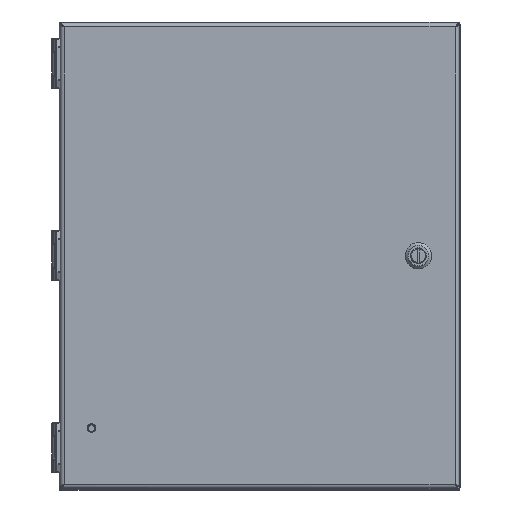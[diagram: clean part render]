
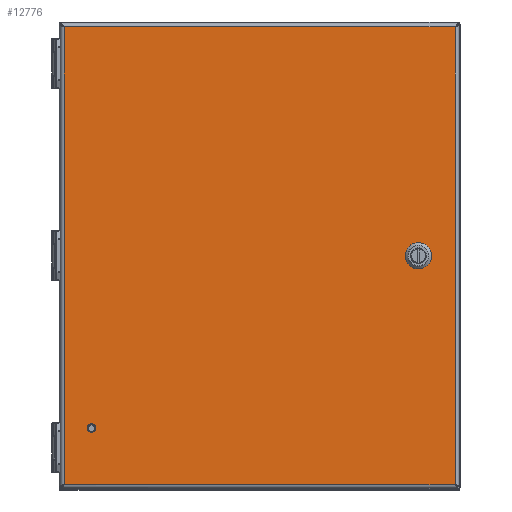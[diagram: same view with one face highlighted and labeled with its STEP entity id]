
A CAD part, top view. The second image highlights one B-rep face of the part: STEP entity #12776.
In plain terms, the highlighted planar face has unit normal (0, 0, 1).
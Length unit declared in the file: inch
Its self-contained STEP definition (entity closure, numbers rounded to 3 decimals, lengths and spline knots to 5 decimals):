
#10521=CARTESIAN_POINT('',(-5.035,-5.16,0.81));
#10522=DIRECTION('',(0.,0.,1.));
#10523=DIRECTION('',(-1.,0.,0.));
#10524=AXIS2_PLACEMENT_3D('',#10521,#10522,#10523);
#10529=CARTESIAN_POINT('',(-5.035,-5.16,0.81));
#10530=DIRECTION('',(0.,0.,1.));
#10531=DIRECTION('',(1.,0.,0.));
#10532=AXIS2_PLACEMENT_3D('',#10529,#10530,#10531);
#10537=DIRECTION('',(0.707,0.707,0.));
#10538=VECTOR('',#10537,0.30984);
#10539=CARTESIAN_POINT('',(4.44447,0.08845,0.81));
#10540=LINE('',#10539,#10538);
#10544=CARTESIAN_POINT('',(4.752,0.,0.81));
#10545=DIRECTION('',(0.,0.,1.));
#10546=DIRECTION('',(-0.961,0.276,0.));
#10547=AXIS2_PLACEMENT_3D('',#10544,#10545,#10546);
#10552=DIRECTION('',(-0.707,0.707,0.));
#10553=VECTOR('',#10552,0.30984);
#10554=CARTESIAN_POINT('',(4.66355,-0.30753,0.81));
#10555=LINE('',#10554,#10553);
#10559=CARTESIAN_POINT('',(4.752,0.,0.81));
#10560=DIRECTION('',(0.,0.,1.));
#10561=DIRECTION('',(-0.276,-0.961,0.));
#10562=AXIS2_PLACEMENT_3D('',#10559,#10560,#10561);
#10567=DIRECTION('',(-0.707,-0.707,0.));
#10568=VECTOR('',#10567,0.30984);
#10569=CARTESIAN_POINT('',(5.05953,-0.08845,0.81));
#10570=LINE('',#10569,#10568);
#10574=CARTESIAN_POINT('',(4.752,0.,0.81));
#10575=DIRECTION('',(0.,0.,1.));
#10576=DIRECTION('',(0.961,-0.276,0.));
#10577=AXIS2_PLACEMENT_3D('',#10574,#10575,#10576);
#10582=DIRECTION('',(0.707,-0.707,0.));
#10583=VECTOR('',#10582,0.30984);
#10584=CARTESIAN_POINT('',(4.84045,0.30753,0.81));
#10585=LINE('',#10584,#10583);
#10589=CARTESIAN_POINT('',(4.752,0.,0.81));
#10590=DIRECTION('',(0.,0.,1.));
#10591=DIRECTION('',(0.276,0.961,0.));
#10592=AXIS2_PLACEMENT_3D('',#10589,#10590,#10591);
#10597=DIRECTION('',(1.,0.,0.));
#10598=VECTOR('',#10597,11.7);
#10599=CARTESIAN_POINT('',(-5.85,-6.85,0.81));
#10600=LINE('',#10599,#10598);
#10689=DIRECTION('',(0.,1.,0.));
#10690=VECTOR('',#10689,13.7);
#10691=CARTESIAN_POINT('',(5.85,-6.85,0.81));
#10692=LINE('',#10691,#10690);
#10739=DIRECTION('',(-1.,0.,0.));
#10740=VECTOR('',#10739,11.7);
#10741=CARTESIAN_POINT('',(5.85,6.85,0.81));
#10742=LINE('',#10741,#10740);
#10838=DIRECTION('',(0.,-1.,0.));
#10839=VECTOR('',#10838,13.7);
#10840=CARTESIAN_POINT('',(-5.85,6.85,0.81));
#10841=LINE('',#10840,#10839);
#12449=CARTESIAN_POINT('',(-5.85,6.85,0.81));
#12450=CARTESIAN_POINT('',(-5.85,-6.85,0.81));
#12451=VERTEX_POINT('',#12449);
#12452=VERTEX_POINT('',#12450);
#12453=CARTESIAN_POINT('',(5.85,-6.85,0.81));
#12454=CARTESIAN_POINT('',(5.85,6.85,0.81));
#12455=VERTEX_POINT('',#12453);
#12456=VERTEX_POINT('',#12454);
#12535=CARTESIAN_POINT('',(-5.13305,-5.16,0.81));
#12536=CARTESIAN_POINT('',(-4.93695,-5.16,0.81));
#12537=VERTEX_POINT('',#12535);
#12538=VERTEX_POINT('',#12536);
#12543=CARTESIAN_POINT('',(4.44447,0.08845,0.81));
#12544=CARTESIAN_POINT('',(4.66355,0.30753,0.81));
#12545=VERTEX_POINT('',#12543);
#12546=VERTEX_POINT('',#12544);
#12547=CARTESIAN_POINT('',(4.84045,0.30753,0.81));
#12548=VERTEX_POINT('',#12547);
#12549=CARTESIAN_POINT('',(5.05953,0.08845,0.81));
#12550=VERTEX_POINT('',#12549);
#12551=CARTESIAN_POINT('',(5.05953,-0.08845,0.81));
#12552=VERTEX_POINT('',#12551);
#12553=CARTESIAN_POINT('',(4.84045,-0.30753,0.81));
#12554=VERTEX_POINT('',#12553);
#12555=CARTESIAN_POINT('',(4.66355,-0.30753,0.81));
#12556=VERTEX_POINT('',#12555);
#12557=CARTESIAN_POINT('',(4.44447,-0.08845,0.81));
#12558=VERTEX_POINT('',#12557);
#12737=CARTESIAN_POINT('',(0.,0.,0.81));
#12738=DIRECTION('',(0.,0.,1.));
#12739=DIRECTION('',(1.,0.,0.));
#12740=AXIS2_PLACEMENT_3D('',#12737,#12738,#12739);
#12741=PLANE('',#12740);
#12743=ORIENTED_EDGE('',*,*,#12742,.F.);
#12745=ORIENTED_EDGE('',*,*,#12744,.F.);
#12747=ORIENTED_EDGE('',*,*,#12746,.F.);
#12749=ORIENTED_EDGE('',*,*,#12748,.F.);
#12750=EDGE_LOOP('',(#12743,#12745,#12747,#12749));
#12751=FACE_OUTER_BOUND('',#12750,.F.);
#12753=ORIENTED_EDGE('',*,*,#12752,.T.);
#12755=ORIENTED_EDGE('',*,*,#12754,.T.);
#12756=EDGE_LOOP('',(#12753,#12755));
#12757=FACE_BOUND('',#12756,.F.);
#12759=ORIENTED_EDGE('',*,*,#12758,.F.);
#12761=ORIENTED_EDGE('',*,*,#12760,.T.);
#12763=ORIENTED_EDGE('',*,*,#12762,.F.);
#12765=ORIENTED_EDGE('',*,*,#12764,.T.);
#12767=ORIENTED_EDGE('',*,*,#12766,.F.);
#12769=ORIENTED_EDGE('',*,*,#12768,.T.);
#12771=ORIENTED_EDGE('',*,*,#12770,.F.);
#12773=ORIENTED_EDGE('',*,*,#12772,.T.);
#12774=EDGE_LOOP('',(#12759,#12761,#12763,#12765,#12767,#12769,#12771,#12773));
#12775=FACE_BOUND('',#12774,.F.);
#10525=CIRCLE('',#10524,0.09805);
#10533=CIRCLE('',#10532,0.09805);
#10548=CIRCLE('',#10547,0.32);
#10563=CIRCLE('',#10562,0.32);
#10578=CIRCLE('',#10577,0.32);
#10593=CIRCLE('',#10592,0.32);
#12742=EDGE_CURVE('',#12452,#12455,#10600,.T.);
#12744=EDGE_CURVE('',#12451,#12452,#10841,.T.);
#12746=EDGE_CURVE('',#12456,#12451,#10742,.T.);
#12748=EDGE_CURVE('',#12455,#12456,#10692,.T.);
#12752=EDGE_CURVE('',#12537,#12538,#10525,.T.);
#12754=EDGE_CURVE('',#12538,#12537,#10533,.T.);
#12758=EDGE_CURVE('',#12545,#12546,#10540,.T.);
#12760=EDGE_CURVE('',#12545,#12558,#10548,.T.);
#12762=EDGE_CURVE('',#12556,#12558,#10555,.T.);
#12764=EDGE_CURVE('',#12556,#12554,#10563,.T.);
#12766=EDGE_CURVE('',#12552,#12554,#10570,.T.);
#12768=EDGE_CURVE('',#12552,#12550,#10578,.T.);
#12770=EDGE_CURVE('',#12548,#12550,#10585,.T.);
#12772=EDGE_CURVE('',#12548,#12546,#10593,.T.);
#12776=ADVANCED_FACE('',(#12751,#12757,#12775),#12741,.T.);
